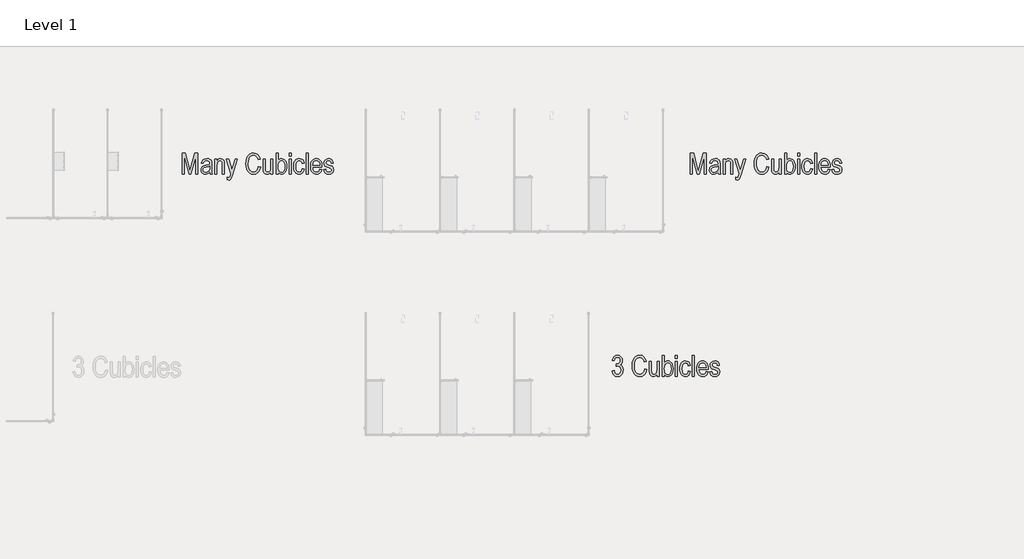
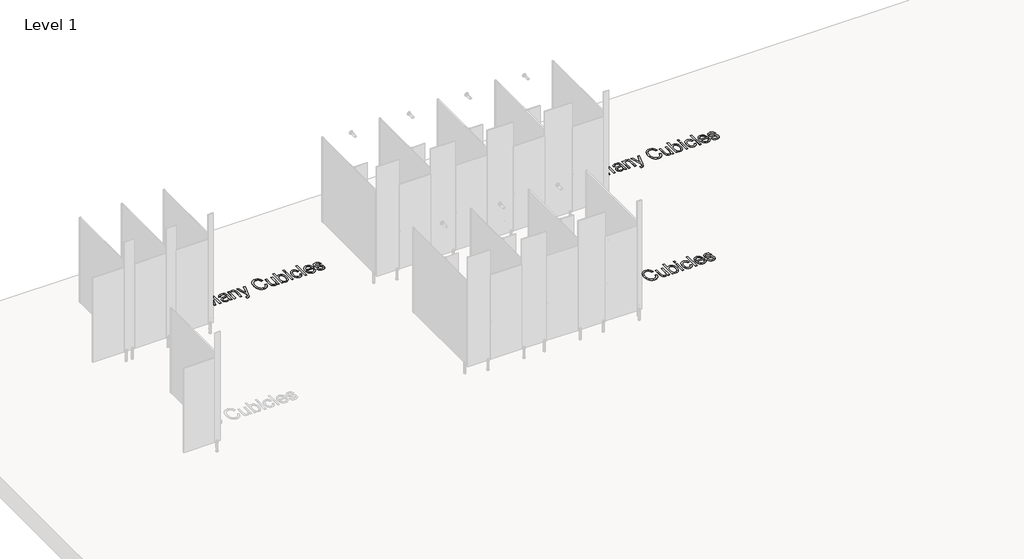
# One storey, part 18 of 21: 3 proxies.
"""IFC4 building model written with IfcOpenShell, lengths in millimetres."""

from ifc_helpers import new_model, si_unit, origin, origin_with_axes, place, context, project, spatial, polyline, outline, extrude, element, save

model = new_model("IFC4")

# Units and contexts
model_context = context("Model", 3, world=origin())
ifc_project = project(units=[si_unit("LENGTHUNIT", "METRE", prefix="MILLI")], contexts=[model_context])

# Site, building, storey
site = spatial("IfcSite", under=ifc_project)
building = spatial("IfcBuilding", under=site)
storey = spatial("IfcBuildingStorey", under=building, Name="Level 1", Elevation=0.0)

# Proxies
placement = place(None, origin())
element("IfcBuildingElementProxy", 1, Name="Arial Narrow-300mm", ObjectType="Arial Narrow-300mm", at=placement, inside=storey, context=model_context, shape_type="SweptSolid", body=[
    extrude(outline(polyline([(-22604.3352406, 32825.7607897), (-22604.3352406, 33130.9381591), (-22557.4972824, 33130.9381591), (-22500.1227064, 32914.8221289), (-22488.6631732, 32869.6761823), (-22475.2808994, 32918.5907002), (-22415.2144867, 33130.9381591), (-22372.9911057, 33130.9381591), (-22372.9911057, 32825.7607897), (-22402.5243996, 32825.7607897), (-22402.5243996, 33086.0229414), (-22475.7423571, 32825.7607897), (-22502.3530854, 32825.7607897), (-22574.8019468, 33100.6357691), (-22574.8019468, 32825.7607897), (-22604.3352406, 32825.7607897)])), origin_with_axes(), (0.0, 0.0, 1.0), 5.0),
    extrude(outline(polyline([(-22195.7913429, 32853.2944334), (-22211.4136093, 32839.1430635), (-22227.6703801, 32828.9909937), (-22244.5616552, 32822.876679), (-22262.0874347, 32820.8385741), (-22287.3906995, 32825.1262854), (-22307.0026524, 32837.9894192), (-22319.5773751, 32858.1012846), (-22323.7689494, 32884.1351908), (-22321.7596856, 32902.2666335), (-22315.7318942, 32918.2061521), (-22306.2239425, 32931.4249929), (-22293.7741979, 32941.3944023), (-22276.2580321, 32948.6527476), (-22251.5508169, 32953.7383962), (-22218.6142724, 32960.5448975), (-22195.7913429, 32968.5050431), (-22195.7913429, 32977.9649263), (-22197.88713, 32997.0769667), (-22204.1744914, 33009.4978702), (-22219.0949575, 33019.3615289), (-22240.3220125, 33022.6494151), (-22259.5494173, 33020.5824691), (-22273.2393295, 33014.381631), (-22282.7184401, 33002.4702538), (-22289.31344, 32983.27169), (-22318.8467338, 32988.1939057), (-22309.0599847, 33017.1023088), (-22292.6205536, 33036.9161495), (-22268.605525, 33048.3660691), (-22236.0919834, 33052.1827089), (-22210.5003076, 33049.500486), (-22191.0998561, 33041.453817), (-22177.8041057, 33029.4463027), (-22170.5265329, 33014.8815436), (-22166.2580491, 32968.5819527), (-22166.2580491, 32918.5137906), (-22164.258399, 32852.3330632), (-22156.4136178, 32825.7607897), (-22185.9469116, 32825.7607897), (-22192.1765908, 32838.4124221), (-22195.7913429, 32853.2944334)]), holes=[polyline([(-22195.7913429, 32938.9717493), (-22217.883631, 32930.9346941), (-22248.6282513, 32924.2051024), (-22277.1232653, 32916.4756857), (-22289.7364429, 32904.1701466), (-22294.2356556, 32885.8272024), (-22291.6591833, 32871.300898), (-22283.9297666, 32860.0240251), (-22271.6434549, 32852.7849072), (-22255.3962978, 32850.3718679), (-22238.8799571, 32852.5541783), (-22223.9402636, 32859.1011097), (-22211.5770422, 32869.2916342), (-22202.7901182, 32882.4047243), (-22197.5410367, 32900.3150519), (-22195.7913429, 32924.897289), (-22195.7913429, 32938.9717493)])]), origin_with_axes(), (0.0, 0.0, 1.0), 5.0),
    extrude(outline(polyline([(-22121.9581084, 32825.7607897), (-22121.9581084, 33047.2604933), (-22092.4248146, 33047.2604933), (-22092.4248146, 33018.6501149), (-22081.9074241, 33033.3686933), (-22069.2750191, 33043.8380152), (-22054.5852819, 33050.0965355), (-22037.8958945, 33052.1827089), (-22012.4003557, 33046.4529423), (-21993.4805893, 33031.4555665), (-21982.7516974, 33007.3828557), (-21979.2138549, 32961.8908159), (-21979.2138549, 32825.7607897), (-22008.7471488, 32825.7607897), (-22008.7471488, 32962.5060928), (-22012.7849038, 32998.7305235), (-22017.9666894, 33008.8825933), (-22025.4365361, 33016.419736), (-22034.7426001, 33021.0919953), (-22045.4330372, 33022.6494151), (-22064.7181242, 33018.4674546), (-22079.6578177, 33005.9215729), (-22089.2330654, 32983.2236215), (-22092.4248146, 32948.5854517), (-22092.4248146, 32825.7607897), (-22121.9581084, 32825.7607897)])), origin_with_axes(), (0.0, 0.0, 1.0), 5.0),
    extrude(outline(polyline([(-21934.9139142, 32742.0831239), (-21934.9139142, 32776.5386334), (-21919.5319904, 32771.6164177), (-21905.3037108, 32775.9233564), (-21896.0745565, 32789.3825398), (-21883.6921078, 32829.2217226), (-21949.6805611, 33047.2604933), (-21919.0705327, 33047.2604933), (-21881.3848192, 32927.7429449), (-21868.3870935, 32879.9820713), (-21856.0815545, 32926.9738487), (-21817.8574737, 33047.2604933), (-21787.2474452, 33047.2604933), (-21855.2355486, 32822.069128), (-21876.1934199, 32764.4253683), (-21884.3554532, 32751.9563963), (-21893.536539, 32743.5444067), (-21903.8808828, 32738.7567829), (-21915.5326902, 32737.1609083), (-21934.9139142, 32742.0831239)])), origin_with_axes(), (0.0, 0.0, 1.0), 5.0),
    extrude(outline(polyline([(-21477.1478602, 32934.0495337), (-21447.6145664, 32924.2051024), (-21462.4388955, 32878.7419037), (-21472.8937969, 32860.9637645), (-21485.3771894, 32846.4879321), (-21499.6102759, 32835.266338), (-21515.3142588, 32827.2509136), (-21532.4891381, 32822.441659), (-21551.1349139, 32820.8385741), (-21582.6678579, 32825.0686031), (-21609.2785861, 32837.7586903), (-21631.2362824, 32859.80291), (-21648.8101304, 32892.0953364), (-21660.3465733, 32932.8862757), (-21664.1920543, 32980.4260341), (-21660.356187, 33026.8506031), (-21648.8485853, 33065.5265279), (-21630.7940521, 33096.0692604), (-21607.3173908, 33118.0942527), (-21579.6010868, 33131.4188442), (-21548.8276254, 33135.8603747), (-21515.9487631, 33130.2363588), (-21488.0690261, 33113.3643111), (-21466.4958779, 33085.5903248), (-21452.536782, 33047.2604933), (-21482.0700758, 33037.416062), (-21492.6547622, 33065.4111634), (-21507.488705, 33085.4076645), (-21526.5719043, 33097.4055651), (-21549.90436, 33101.4048653), (-21573.5829091, 33098.2131161), (-21593.8582075, 33088.6378685), (-21610.5668223, 33072.3041881), (-21623.5453205, 33048.8371405), (-21631.8804005, 33018.2174983), (-21634.6587605, 32980.4260341), (-21633.2455462, 32951.1138555), (-21629.0059035, 32925.70484), (-21621.9398322, 32904.1989877), (-21612.0473324, 32886.5962986), (-21599.8138961, 32872.9015795), (-21585.7250152, 32863.1196373), (-21569.7806898, 32857.250472), (-21551.9809198, 32855.2940835), (-21526.129674, 32860.1778443), (-21504.1046817, 32874.8291268), (-21487.3095436, 32899.4017502), (-21477.1478602, 32934.0495337)])), origin_with_axes(), (0.0, 0.0, 1.0), 5.0),
    extrude(outline(polyline([(-21295.0258817, 32825.7607897), (-21295.0258817, 32855.6786316), (-21305.9855024, 32840.4601407), (-21318.7140444, 32829.5678159), (-21333.2115077, 32823.0208845), (-21349.4778921, 32820.8385741), (-21368.3015215, 32823.7322985), (-21384.1641304, 32832.4134718), (-21396.1620311, 32845.5265619), (-21403.3915353, 32861.7160367), (-21408.2368413, 32910.0537325), (-21408.2368413, 33047.2604933), (-21378.7035475, 33047.2604933), (-21378.7035475, 32922.66691), (-21375.357979, 32876.2519548), (-21370.5799689, 32865.6864958), (-21362.9370755, 32857.4475529), (-21353.2272361, 32852.1407891), (-21342.2483879, 32850.3718679), (-21322.636435, 32854.9672176), (-21306.8699631, 32868.7532669), (-21297.986902, 32891.2108757), (-21295.0258817, 32926.8969391), (-21295.0258817, 33047.2604933), (-21265.4925879, 33047.2604933), (-21265.4925879, 32825.7607897), (-21295.0258817, 32825.7607897)])), origin_with_axes(), (0.0, 0.0, 1.0), 5.0),
    extrude(outline(polyline([(-21186.7371377, 32825.7607897), (-21216.2704315, 32825.7607897), (-21216.2704315, 33130.9381591), (-21186.7371377, 33130.9381591), (-21186.7371377, 33023.6492402), (-21176.1716788, 33036.2047355), (-21164.3179837, 33045.1070239), (-21151.0991429, 33050.4137877), (-21136.4382467, 33052.1827089), (-21115.9514468, 33049.0005734), (-21097.4066149, 33039.4541669), (-21081.5920744, 33023.4473524), (-21069.296149, 33000.8839929), (-21061.3936857, 32972.2928419), (-21058.7595312, 32938.2026531), (-21060.2232174, 32911.6640276), (-21064.614276, 32888.3459924), (-21071.9327069, 32868.2485475), (-21082.1785103, 32851.3716929), (-21094.3758952, 32838.0134534), (-21107.5490709, 32828.4718538), (-21121.6980375, 32822.746894), (-21136.8227948, 32820.8385741), (-21151.7817157, 32822.8189968), (-21165.1255347, 32828.7602649), (-21176.7965694, 32838.6046961), (-21186.7371377, 32852.2946084), (-21186.7371377, 32825.7607897)]), holes=[polyline([(-21186.7371377, 32938.2026531), (-21185.1604905, 32907.679148), (-21180.4305489, 32885.9425668), (-21172.8164966, 32870.65678), (-21162.5875172, 32859.4856578), (-21150.41657, 32852.6503154), (-21136.976614, 32850.3718679), (-21118.9701494, 32855.793996), (-21103.0979267, 32872.0603805), (-21091.9941004, 32899.1325665), (-21088.292825, 32936.9720992), (-21091.8595086, 32975.3211581), (-21102.5595594, 33001.9222727), (-21118.4510095, 33017.4676295), (-21137.591891, 33022.6494151), (-21155.7041063, 33017.227287), (-21171.7397619, 33000.9609025), (-21182.9877938, 32974.4270838), (-21186.7371377, 32938.2026531)])]), origin_with_axes(), (0.0, 0.0, 1.0), 5.0),
    extrude(outline(polyline([(-21024.3040218, 32825.7607897), (-21024.3040218, 33047.2604933), (-20994.7707279, 33047.2604933), (-20994.7707279, 32825.7607897), (-21024.3040218, 32825.7607897)])), origin_with_axes(), (0.0, 0.0, 1.0), 5.0),
    extrude(outline(polyline([(-21024.3040218, 33086.6382184), (-21024.3040218, 33130.9381591), (-20994.7707279, 33130.9381591), (-20994.7707279, 33086.6382184), (-21024.3040218, 33086.6382184)])), origin_with_axes(), (0.0, 0.0, 1.0), 5.0),
    extrude(outline(polyline([(-20832.337612, 32904.5162399), (-20802.8043182, 32899.5940242), (-20811.889267, 32865.7634055), (-20828.8382243, 32841.0273491), (-20851.8053594, 32825.8857678), (-20878.9448413, 32820.8385741), (-20895.9226397, 32822.667581), (-20911.323791, 32828.1546016), (-20925.1482951, 32837.299636), (-20937.3961519, 32850.1026842), (-20947.4232436, 32866.4916434), (-20954.5854519, 32886.3944108), (-20958.8827768, 32909.8109865), (-20960.3152185, 32936.7413704), (-20958.8395152, 32963.7823118), (-20954.4124052, 32987.2229217), (-20947.0338886, 33007.0632001), (-20936.7039654, 33023.3031469), (-20924.0571399, 33035.9379553), (-20909.7279164, 33044.9628184), (-20893.716295, 33050.3777363), (-20876.0222757, 33052.1827089), (-20849.7287997, 33047.8757702), (-20827.9153089, 33034.9549542), (-20811.8508121, 33013.4202608), (-20802.8043182, 32983.27169), (-20832.337612, 32978.3494744), (-20838.6442008, 32997.778767), (-20848.3348128, 33011.6128847), (-20860.8518533, 33019.8902825), (-20875.6377277, 33022.6494151), (-20897.431991, 33017.5445391), (-20915.1308172, 33002.2299112), (-20926.8691478, 32975.8018433), (-20930.7819247, 32937.3566473), (-20927.1383315, 32897.7866482), (-20916.2075518, 32870.9067362), (-20899.5854604, 32855.505585), (-20878.8679317, 32850.3718679), (-20862.3227498, 32853.6693678), (-20848.3732676, 32863.5618676), (-20838.0385375, 32880.3954605), (-20832.337612, 32904.5162399)])), origin_with_axes(), (0.0, 0.0, 1.0), 5.0),
    extrude(outline(polyline([(-20773.2710244, 32825.7607897), (-20773.2710244, 33130.9381591), (-20743.7377306, 33130.9381591), (-20743.7377306, 32825.7607897), (-20773.2710244, 32825.7607897)])), origin_with_axes(), (0.0, 0.0, 1.0), 5.0),
    extrude(outline(polyline([(-20571.4601833, 32894.6718086), (-20541.9268895, 32889.749593), (-20553.1364665, 32859.7932963), (-20570.7679968, 32838.220148), (-20594.1100662, 32825.1839676), (-20622.4512609, 32820.8385741), (-20640.9432175, 32822.667581), (-20657.5797295, 32828.1546016), (-20672.360797, 32837.299636), (-20685.2864199, 32850.1026842), (-20695.7845829, 32866.3618584), (-20703.2832708, 32885.8752709), (-20707.7824835, 32908.6429216), (-20709.2822211, 32934.6648106), (-20707.7752733, 32961.6144219), (-20703.2544297, 32985.1655894), (-20695.7196904, 33005.3183131), (-20685.1710555, 33022.072593), (-20672.3151319, 33035.2457687), (-20657.8585269, 33044.6551799), (-20641.8012405, 33050.3008267), (-20624.1432725, 33052.1827089), (-20607.2255597, 33050.3657192), (-20591.7739365, 33044.9147499), (-20577.7884029, 33035.8298011), (-20565.268959, 33023.1108728), (-20554.9558597, 33006.9502391), (-20547.5893602, 32987.5401739), (-20543.1694606, 32964.8806773), (-20541.6961607, 32938.9717493), (-20541.9268895, 32929.127318), (-20679.7489273, 32929.127318), (-20674.201821, 32894.8640827), (-20661.5598023, 32870.2145497), (-20643.5917925, 32855.3325383), (-20622.0667128, 32850.3718679), (-20605.261961, 32853.1406142), (-20591.2259555, 32861.4468531), (-20579.9586963, 32875.2905845), (-20571.4601833, 32894.6718086)]), holes=[polyline([(-20677.7492772, 32958.6606119), (-20571.4601833, 32958.6606119), (-20575.767122, 32983.9254218), (-20584.3809994, 33001.8838179), (-20602.031757, 33017.4580158), (-20623.9125437, 33022.6494151), (-20644.0051817, 33018.323249), (-20660.9060706, 33005.3447508), (-20672.7693794, 32985.0213839), (-20677.7492772, 32958.6606119)])]), origin_with_axes(), (0.0, 0.0, 1.0), 5.0),
    extrude(outline(polyline([(-20517.3158113, 32889.749593), (-20487.7825175, 32894.6718086), (-20482.7449375, 32875.0983105), (-20473.0158706, 32861.2930338), (-20458.9798651, 32853.1021594), (-20441.021469, 32850.3718679), (-20423.2938018, 32852.7945209), (-20410.103802, 32860.0624799), (-20401.9129276, 32871.0413281), (-20399.1826361, 32884.5966485), (-20401.3553329, 32895.9984995), (-20407.8734231, 32904.5162399), (-20438.4834516, 32917.2063271), (-20486.3981444, 32936.5106415), (-20497.3866062, 32945.6724999), (-20505.5870944, 32957.4685128), (-20510.6919704, 32971.4949046), (-20512.3935957, 32987.3478999), (-20507.8847693, 33013.477943), (-20494.35829, 33034.185858), (-20472.8524377, 33047.6834962), (-20444.4054923, 33052.1827089), (-20425.5434081, 33050.308037), (-20409.103977, 33044.684021), (-20395.6544073, 33035.8874833), (-20385.7619075, 33024.495246), (-20378.9073377, 33009.0748673), (-20374.5715579, 32988.1939057), (-20404.1048517, 32983.27169), (-20408.1185725, 33000.4994448), (-20416.0066153, 33012.8049838), (-20427.7689802, 33020.1883073), (-20443.4056672, 33022.6494151), (-20460.7872412, 33020.553628), (-20473.0927802, 33014.2662666), (-20480.4184215, 33004.7102464), (-20482.8603019, 32992.8084828), (-20480.4953311, 32981.3297221), (-20473.4004187, 32972.581253), (-20439.6370959, 32958.6606119), (-20391.3763097, 32939.3947522), (-20382.2432925, 32930.9923763), (-20375.3791089, 32920.0135282), (-20371.081784, 32906.6024133), (-20369.6493423, 32890.9032373), (-20374.5811716, 32862.58127), (-20389.3766596, 32840.2197981), (-20412.689888, 32825.6838801), (-20443.1749383, 32820.8385741), (-20471.775703, 32825.1455128), (-20493.6661034, 32838.0663288), (-20508.8461395, 32859.6010222), (-20517.3158113, 32889.749593)])), origin_with_axes(), (0.0, 0.0, 1.0), 5.0),
])
element("IfcBuildingElementProxy", 2, Name="Arial Narrow-300mm", ObjectType="Arial Narrow-300mm", at=placement, inside=storey, context=model_context, shape_type="SweptSolid", body=[
    extrude(outline(polyline([(-15104.3352406, 32825.7607897), (-15104.3352406, 33130.9381591), (-15057.4972824, 33130.9381591), (-15000.1227064, 32914.8221289), (-14988.6631732, 32869.6761823), (-14975.2808994, 32918.5907002), (-14915.2144867, 33130.9381591), (-14872.9911057, 33130.9381591), (-14872.9911057, 32825.7607897), (-14902.5243996, 32825.7607897), (-14902.5243996, 33086.0229414), (-14975.7423571, 32825.7607897), (-15002.3530854, 32825.7607897), (-15074.8019468, 33100.6357691), (-15074.8019468, 32825.7607897), (-15104.3352406, 32825.7607897)])), origin_with_axes(), (0.0, 0.0, 1.0), 5.0),
    extrude(outline(polyline([(-14695.7913429, 32853.2944334), (-14711.4136093, 32839.1430635), (-14727.6703801, 32828.9909937), (-14744.5616552, 32822.876679), (-14762.0874347, 32820.8385741), (-14787.3906995, 32825.1262854), (-14807.0026524, 32837.9894192), (-14819.5773751, 32858.1012846), (-14823.7689494, 32884.1351908), (-14821.7596856, 32902.2666335), (-14815.7318942, 32918.2061521), (-14806.2239425, 32931.4249929), (-14793.7741979, 32941.3944023), (-14776.2580321, 32948.6527476), (-14751.5508169, 32953.7383962), (-14718.6142724, 32960.5448975), (-14695.7913429, 32968.5050431), (-14695.7913429, 32977.9649263), (-14697.88713, 32997.0769667), (-14704.1744914, 33009.4978702), (-14719.0949575, 33019.3615289), (-14740.3220125, 33022.6494151), (-14759.5494173, 33020.5824691), (-14773.2393295, 33014.381631), (-14782.7184401, 33002.4702538), (-14789.31344, 32983.27169), (-14818.8467338, 32988.1939057), (-14809.0599847, 33017.1023088), (-14792.6205536, 33036.9161495), (-14768.605525, 33048.3660691), (-14736.0919834, 33052.1827089), (-14710.5003076, 33049.500486), (-14691.0998561, 33041.453817), (-14677.8041057, 33029.4463027), (-14670.5265329, 33014.8815436), (-14666.2580491, 32968.5819527), (-14666.2580491, 32918.5137906), (-14664.258399, 32852.3330632), (-14656.4136178, 32825.7607897), (-14685.9469116, 32825.7607897), (-14692.1765908, 32838.4124221), (-14695.7913429, 32853.2944334)]), holes=[polyline([(-14695.7913429, 32938.9717493), (-14717.883631, 32930.9346941), (-14748.6282513, 32924.2051024), (-14777.1232653, 32916.4756857), (-14789.7364429, 32904.1701466), (-14794.2356556, 32885.8272024), (-14791.6591833, 32871.300898), (-14783.9297666, 32860.0240251), (-14771.6434549, 32852.7849072), (-14755.3962978, 32850.3718679), (-14738.8799571, 32852.5541783), (-14723.9402636, 32859.1011097), (-14711.5770422, 32869.2916342), (-14702.7901182, 32882.4047243), (-14697.5410367, 32900.3150519), (-14695.7913429, 32924.897289), (-14695.7913429, 32938.9717493)])]), origin_with_axes(), (0.0, 0.0, 1.0), 5.0),
    extrude(outline(polyline([(-14621.9581084, 32825.7607897), (-14621.9581084, 33047.2604933), (-14592.4248146, 33047.2604933), (-14592.4248146, 33018.6501149), (-14581.9074241, 33033.3686933), (-14569.2750191, 33043.8380152), (-14554.5852819, 33050.0965355), (-14537.8958945, 33052.1827089), (-14512.4003557, 33046.4529423), (-14493.4805893, 33031.4555665), (-14482.7516974, 33007.3828557), (-14479.2138549, 32961.8908159), (-14479.2138549, 32825.7607897), (-14508.7471488, 32825.7607897), (-14508.7471488, 32962.5060928), (-14512.7849038, 32998.7305235), (-14517.9666894, 33008.8825933), (-14525.4365361, 33016.419736), (-14534.7426001, 33021.0919953), (-14545.4330372, 33022.6494151), (-14564.7181242, 33018.4674546), (-14579.6578177, 33005.9215729), (-14589.2330654, 32983.2236215), (-14592.4248146, 32948.5854517), (-14592.4248146, 32825.7607897), (-14621.9581084, 32825.7607897)])), origin_with_axes(), (0.0, 0.0, 1.0), 5.0),
    extrude(outline(polyline([(-14434.9139142, 32742.0831239), (-14434.9139142, 32776.5386334), (-14419.5319904, 32771.6164177), (-14405.3037108, 32775.9233564), (-14396.0745565, 32789.3825398), (-14383.6921078, 32829.2217226), (-14449.6805611, 33047.2604933), (-14419.0705327, 33047.2604933), (-14381.3848192, 32927.7429449), (-14368.3870935, 32879.9820713), (-14356.0815545, 32926.9738487), (-14317.8574737, 33047.2604933), (-14287.2474452, 33047.2604933), (-14355.2355486, 32822.069128), (-14376.1934199, 32764.4253683), (-14384.3554532, 32751.9563963), (-14393.536539, 32743.5444067), (-14403.8808828, 32738.7567829), (-14415.5326902, 32737.1609083), (-14434.9139142, 32742.0831239)])), origin_with_axes(), (0.0, 0.0, 1.0), 5.0),
    extrude(outline(polyline([(-13977.1478602, 32934.0495337), (-13947.6145664, 32924.2051024), (-13962.4388955, 32878.7419037), (-13972.8937969, 32860.9637645), (-13985.3771894, 32846.4879321), (-13999.6102759, 32835.266338), (-14015.3142588, 32827.2509136), (-14032.4891381, 32822.441659), (-14051.1349139, 32820.8385741), (-14082.6678579, 32825.0686031), (-14109.2785861, 32837.7586903), (-14131.2362824, 32859.80291), (-14148.8101304, 32892.0953364), (-14160.3465733, 32932.8862757), (-14164.1920543, 32980.4260341), (-14160.356187, 33026.8506031), (-14148.8485853, 33065.5265279), (-14130.7940521, 33096.0692604), (-14107.3173908, 33118.0942527), (-14079.6010868, 33131.4188442), (-14048.8276254, 33135.8603747), (-14015.9487631, 33130.2363588), (-13988.0690261, 33113.3643111), (-13966.4958779, 33085.5903248), (-13952.536782, 33047.2604933), (-13982.0700758, 33037.416062), (-13992.6547622, 33065.4111634), (-14007.488705, 33085.4076645), (-14026.5719043, 33097.4055651), (-14049.90436, 33101.4048653), (-14073.5829091, 33098.2131161), (-14093.8582075, 33088.6378685), (-14110.5668223, 33072.3041881), (-14123.5453205, 33048.8371405), (-14131.8804005, 33018.2174983), (-14134.6587605, 32980.4260341), (-14133.2455462, 32951.1138555), (-14129.0059035, 32925.70484), (-14121.9398322, 32904.1989877), (-14112.0473324, 32886.5962986), (-14099.8138961, 32872.9015795), (-14085.7250152, 32863.1196373), (-14069.7806898, 32857.250472), (-14051.9809198, 32855.2940835), (-14026.129674, 32860.1778443), (-14004.1046817, 32874.8291268), (-13987.3095436, 32899.4017502), (-13977.1478602, 32934.0495337)])), origin_with_axes(), (0.0, 0.0, 1.0), 5.0),
    extrude(outline(polyline([(-13795.0258817, 32825.7607897), (-13795.0258817, 32855.6786316), (-13805.9855024, 32840.4601407), (-13818.7140444, 32829.5678159), (-13833.2115077, 32823.0208845), (-13849.4778921, 32820.8385741), (-13868.3015215, 32823.7322985), (-13884.1641304, 32832.4134718), (-13896.1620311, 32845.5265619), (-13903.3915353, 32861.7160367), (-13908.2368413, 32910.0537325), (-13908.2368413, 33047.2604933), (-13878.7035475, 33047.2604933), (-13878.7035475, 32922.66691), (-13875.357979, 32876.2519548), (-13870.5799689, 32865.6864958), (-13862.9370755, 32857.4475529), (-13853.2272361, 32852.1407891), (-13842.2483879, 32850.3718679), (-13822.636435, 32854.9672176), (-13806.8699631, 32868.7532669), (-13797.986902, 32891.2108757), (-13795.0258817, 32926.8969391), (-13795.0258817, 33047.2604933), (-13765.4925879, 33047.2604933), (-13765.4925879, 32825.7607897), (-13795.0258817, 32825.7607897)])), origin_with_axes(), (0.0, 0.0, 1.0), 5.0),
    extrude(outline(polyline([(-13686.7371377, 32825.7607897), (-13716.2704315, 32825.7607897), (-13716.2704315, 33130.9381591), (-13686.7371377, 33130.9381591), (-13686.7371377, 33023.6492402), (-13676.1716788, 33036.2047355), (-13664.3179837, 33045.1070239), (-13651.0991429, 33050.4137877), (-13636.4382467, 33052.1827089), (-13615.9514468, 33049.0005734), (-13597.4066149, 33039.4541669), (-13581.5920744, 33023.4473524), (-13569.296149, 33000.8839929), (-13561.3936857, 32972.2928419), (-13558.7595312, 32938.2026531), (-13560.2232174, 32911.6640276), (-13564.614276, 32888.3459924), (-13571.9327069, 32868.2485475), (-13582.1785103, 32851.3716929), (-13594.3758952, 32838.0134534), (-13607.5490709, 32828.4718538), (-13621.6980375, 32822.746894), (-13636.8227948, 32820.8385741), (-13651.7817157, 32822.8189968), (-13665.1255347, 32828.7602649), (-13676.7965694, 32838.6046961), (-13686.7371377, 32852.2946084), (-13686.7371377, 32825.7607897)]), holes=[polyline([(-13686.7371377, 32938.2026531), (-13685.1604905, 32907.679148), (-13680.4305489, 32885.9425668), (-13672.8164966, 32870.65678), (-13662.5875172, 32859.4856578), (-13650.41657, 32852.6503154), (-13636.976614, 32850.3718679), (-13618.9701494, 32855.793996), (-13603.0979267, 32872.0603805), (-13591.9941004, 32899.1325665), (-13588.292825, 32936.9720992), (-13591.8595086, 32975.3211581), (-13602.5595594, 33001.9222727), (-13618.4510095, 33017.4676295), (-13637.591891, 33022.6494151), (-13655.7041063, 33017.227287), (-13671.7397619, 33000.9609025), (-13682.9877938, 32974.4270838), (-13686.7371377, 32938.2026531)])]), origin_with_axes(), (0.0, 0.0, 1.0), 5.0),
    extrude(outline(polyline([(-13524.3040218, 32825.7607897), (-13524.3040218, 33047.2604933), (-13494.7707279, 33047.2604933), (-13494.7707279, 32825.7607897), (-13524.3040218, 32825.7607897)])), origin_with_axes(), (0.0, 0.0, 1.0), 5.0),
    extrude(outline(polyline([(-13524.3040218, 33086.6382184), (-13524.3040218, 33130.9381591), (-13494.7707279, 33130.9381591), (-13494.7707279, 33086.6382184), (-13524.3040218, 33086.6382184)])), origin_with_axes(), (0.0, 0.0, 1.0), 5.0),
    extrude(outline(polyline([(-13332.337612, 32904.5162399), (-13302.8043182, 32899.5940242), (-13311.889267, 32865.7634055), (-13328.8382243, 32841.0273491), (-13351.8053594, 32825.8857678), (-13378.9448413, 32820.8385741), (-13395.9226397, 32822.667581), (-13411.323791, 32828.1546016), (-13425.1482951, 32837.299636), (-13437.3961519, 32850.1026842), (-13447.4232436, 32866.4916434), (-13454.5854519, 32886.3944108), (-13458.8827768, 32909.8109865), (-13460.3152185, 32936.7413704), (-13458.8395152, 32963.7823118), (-13454.4124052, 32987.2229217), (-13447.0338886, 33007.0632001), (-13436.7039654, 33023.3031469), (-13424.0571399, 33035.9379553), (-13409.7279164, 33044.9628184), (-13393.716295, 33050.3777363), (-13376.0222757, 33052.1827089), (-13349.7287997, 33047.8757702), (-13327.9153089, 33034.9549542), (-13311.8508121, 33013.4202608), (-13302.8043182, 32983.27169), (-13332.337612, 32978.3494744), (-13338.6442008, 32997.778767), (-13348.3348128, 33011.6128847), (-13360.8518533, 33019.8902825), (-13375.6377277, 33022.6494151), (-13397.431991, 33017.5445391), (-13415.1308172, 33002.2299112), (-13426.8691478, 32975.8018433), (-13430.7819247, 32937.3566473), (-13427.1383315, 32897.7866482), (-13416.2075518, 32870.9067362), (-13399.5854604, 32855.505585), (-13378.8679317, 32850.3718679), (-13362.3227498, 32853.6693678), (-13348.3732676, 32863.5618676), (-13338.0385375, 32880.3954605), (-13332.337612, 32904.5162399)])), origin_with_axes(), (0.0, 0.0, 1.0), 5.0),
    extrude(outline(polyline([(-13273.2710244, 32825.7607897), (-13273.2710244, 33130.9381591), (-13243.7377306, 33130.9381591), (-13243.7377306, 32825.7607897), (-13273.2710244, 32825.7607897)])), origin_with_axes(), (0.0, 0.0, 1.0), 5.0),
    extrude(outline(polyline([(-13071.4601833, 32894.6718086), (-13041.9268895, 32889.749593), (-13053.1364665, 32859.7932963), (-13070.7679968, 32838.220148), (-13094.1100662, 32825.1839676), (-13122.4512609, 32820.8385741), (-13140.9432175, 32822.667581), (-13157.5797295, 32828.1546016), (-13172.360797, 32837.299636), (-13185.2864199, 32850.1026842), (-13195.7845829, 32866.3618584), (-13203.2832708, 32885.8752709), (-13207.7824835, 32908.6429216), (-13209.2822211, 32934.6648106), (-13207.7752733, 32961.6144219), (-13203.2544297, 32985.1655894), (-13195.7196904, 33005.3183131), (-13185.1710555, 33022.072593), (-13172.3151319, 33035.2457687), (-13157.8585269, 33044.6551799), (-13141.8012405, 33050.3008267), (-13124.1432725, 33052.1827089), (-13107.2255597, 33050.3657192), (-13091.7739365, 33044.9147499), (-13077.7884029, 33035.8298011), (-13065.268959, 33023.1108728), (-13054.9558597, 33006.9502391), (-13047.5893602, 32987.5401739), (-13043.1694606, 32964.8806773), (-13041.6961607, 32938.9717493), (-13041.9268895, 32929.127318), (-13179.7489273, 32929.127318), (-13174.201821, 32894.8640827), (-13161.5598023, 32870.2145497), (-13143.5917925, 32855.3325383), (-13122.0667128, 32850.3718679), (-13105.261961, 32853.1406142), (-13091.2259555, 32861.4468531), (-13079.9586963, 32875.2905845), (-13071.4601833, 32894.6718086)]), holes=[polyline([(-13177.7492772, 32958.6606119), (-13071.4601833, 32958.6606119), (-13075.767122, 32983.9254218), (-13084.3809994, 33001.8838179), (-13102.031757, 33017.4580158), (-13123.9125437, 33022.6494151), (-13144.0051817, 33018.323249), (-13160.9060706, 33005.3447508), (-13172.7693794, 32985.0213839), (-13177.7492772, 32958.6606119)])]), origin_with_axes(), (0.0, 0.0, 1.0), 5.0),
    extrude(outline(polyline([(-13017.3158113, 32889.749593), (-12987.7825175, 32894.6718086), (-12982.7449375, 32875.0983105), (-12973.0158706, 32861.2930338), (-12958.9798651, 32853.1021594), (-12941.021469, 32850.3718679), (-12923.2938018, 32852.7945209), (-12910.103802, 32860.0624799), (-12901.9129276, 32871.0413281), (-12899.1826361, 32884.5966485), (-12901.3553329, 32895.9984995), (-12907.8734231, 32904.5162399), (-12938.4834516, 32917.2063271), (-12986.3981444, 32936.5106415), (-12997.3866062, 32945.6724999), (-13005.5870944, 32957.4685128), (-13010.6919704, 32971.4949046), (-13012.3935957, 32987.3478999), (-13007.8847693, 33013.477943), (-12994.35829, 33034.185858), (-12972.8524377, 33047.6834962), (-12944.4054923, 33052.1827089), (-12925.5434081, 33050.308037), (-12909.103977, 33044.684021), (-12895.6544073, 33035.8874833), (-12885.7619075, 33024.495246), (-12878.9073377, 33009.0748673), (-12874.5715579, 32988.1939057), (-12904.1048517, 32983.27169), (-12908.1185725, 33000.4994448), (-12916.0066153, 33012.8049838), (-12927.7689802, 33020.1883073), (-12943.4056672, 33022.6494151), (-12960.7872412, 33020.553628), (-12973.0927802, 33014.2662666), (-12980.4184215, 33004.7102464), (-12982.8603019, 32992.8084828), (-12980.4953311, 32981.3297221), (-12973.4004187, 32972.581253), (-12939.6370959, 32958.6606119), (-12891.3763097, 32939.3947522), (-12882.2432925, 32930.9923763), (-12875.3791089, 32920.0135282), (-12871.081784, 32906.6024133), (-12869.6493423, 32890.9032373), (-12874.5811716, 32862.58127), (-12889.3766596, 32840.2197981), (-12912.689888, 32825.6838801), (-12943.1749383, 32820.8385741), (-12971.775703, 32825.1455128), (-12993.6661034, 32838.0663288), (-13008.8461395, 32859.6010222), (-13017.3158113, 32889.749593)])), origin_with_axes(), (0.0, 0.0, 1.0), 5.0),
])
element("IfcBuildingElementProxy", 3, Name="Arial Narrow-300mm", ObjectType="Arial Narrow-300mm", at=placement, inside=storey, context=model_context, shape_type="SweptSolid", body=[
    extrude(outline(polyline([(-16260.9571104, 29917.0588751), (-16231.4238166, 29921.9810907), (-16224.6077016, 29896.1394586), (-16214.0037878, 29877.68115), (-16199.6120753, 29866.6061648), (-16181.4325641, 29862.9145031), (-16161.2534027, 29867.538694), (-16143.9391246, 29881.4112665), (-16132.0277474, 29902.6479352), (-16128.0572883, 29929.3644142), (-16131.7585637, 29954.408109), (-16142.86239, 29974.0104482), (-16159.3498896, 29986.6716942), (-16179.2021851, 29990.8921096), (-16201.8905228, 29986.7389902), (-16196.9683072, 30020.4254034), (-16191.8922723, 30019.9639457), (-16170.1460774, 30023.4633334), (-16152.8990953, 30033.9614964), (-16141.6510635, 30050.3047905), (-16137.9017195, 30071.3395714), (-16140.9492632, 30090.6919543), (-16150.0918942, 30105.8335356), (-16163.6183735, 30115.610671), (-16179.8174621, 30118.8697161), (-16196.6126002, 30115.8125588), (-16210.542855, 30106.6410867), (-16220.781448, 30091.2783902), (-16226.501601, 30069.6475598), (-16256.0348948, 30074.5697754), (-16246.6326938, 30106.6314729), (-16229.9625338, 30129.7524272), (-16207.5241524, 30143.7403643), (-16180.8172871, 30148.4030099), (-16152.8702542, 30142.7213118), (-16129.4801162, 30125.6762174), (-16113.6463483, 30100.0172457), (-16108.3684257, 30068.4939155), (-16110.5026677, 30048.6896885), (-16116.9053935, 30031.2696597), (-16127.1343728, 30016.7914239), (-16140.7473754, 30005.8125758), (-16128.3745404, 30000.2270147), (-16118.3282214, 29991.9303895), (-16103.9845774, 29966.0887574), (-16098.5239945, 29929.9027815), (-16100.0597834, 29909.6395002), (-16104.6671503, 29891.3037663), (-16112.3460951, 29874.8955797), (-16123.0966178, 29860.4149405), (-16135.9861893, 29848.5876831), (-16150.0822805, 29840.1396421), (-16165.3848913, 29835.0708175), (-16181.8940218, 29833.3812093), (-16211.2446552, 29839.0532937), (-16235.7692101, 29856.069547), (-16253.1219429, 29882.6610479), (-16260.9571104, 29917.0588751)])), origin_with_axes(), (0.0, 0.0, 1.0), 5.0),
    extrude(outline(polyline([(-15778.5799782, 29946.5921689), (-15749.0466844, 29936.7477376), (-15763.8710135, 29891.2845389), (-15774.3259149, 29873.5063997), (-15786.8093074, 29859.0305673), (-15801.0423939, 29847.8089732), (-15816.7463768, 29839.7935488), (-15833.9212561, 29834.9842942), (-15852.5670319, 29833.3812093), (-15884.0999759, 29837.6112383), (-15910.7107041, 29850.3013255), (-15932.6684004, 29872.3455452), (-15950.2422484, 29904.6379716), (-15961.7786913, 29945.4289109), (-15965.6241723, 29992.9686693), (-15961.788305, 30039.3932383), (-15950.2807033, 30078.0691631), (-15932.2261701, 30108.6118956), (-15908.7495088, 30130.6368879), (-15881.0332048, 30143.9614794), (-15850.2597434, 30148.4030099), (-15817.3808811, 30142.778994), (-15789.5011441, 30125.9069463), (-15767.9279959, 30098.13296), (-15753.9689, 30059.8031285), (-15783.5021938, 30049.9586972), (-15794.0868802, 30077.9537987), (-15808.920823, 30097.9502997), (-15828.0040223, 30109.9482003), (-15851.336478, 30113.9475005), (-15875.0150271, 30110.7557513), (-15895.2903255, 30101.1805037), (-15911.9989403, 30084.8468233), (-15924.9774385, 30061.3797757), (-15933.3125185, 30030.7601335), (-15936.0908785, 29992.9686693), (-15934.6776642, 29963.6564907), (-15930.4380215, 29938.2474752), (-15923.3719502, 29916.7416229), (-15913.4794504, 29899.1389338), (-15901.2460141, 29885.4442147), (-15887.1571332, 29875.6622725), (-15871.2128078, 29869.7931072), (-15853.4130378, 29867.8367187), (-15827.561792, 29872.7204796), (-15805.5367997, 29887.371762), (-15788.7416616, 29911.9443854), (-15778.5799782, 29946.5921689)])), origin_with_axes(), (0.0, 0.0, 1.0), 5.0),
    extrude(outline(polyline([(-15596.4579997, 29838.3034249), (-15596.4579997, 29868.2212668), (-15607.4176204, 29853.0027759), (-15620.1461624, 29842.1104511), (-15634.6436257, 29835.5635197), (-15650.9100101, 29833.3812093), (-15669.7336395, 29836.2749337), (-15685.5962484, 29844.956107), (-15697.5941491, 29858.0691971), (-15704.8236533, 29874.2586719), (-15709.6689593, 29922.5963677), (-15709.6689593, 30059.8031285), (-15680.1356655, 30059.8031285), (-15680.1356655, 29935.2095452), (-15676.790097, 29888.79459), (-15672.0120869, 29878.229131), (-15664.3691935, 29869.9901881), (-15654.6593541, 29864.6834243), (-15643.6805059, 29862.9145031), (-15624.068553, 29867.5098529), (-15608.3020811, 29881.2959021), (-15599.41902, 29903.7535109), (-15596.4579997, 29939.4395743), (-15596.4579997, 30059.8031285), (-15566.9247059, 30059.8031285), (-15566.9247059, 29838.3034249), (-15596.4579997, 29838.3034249)])), origin_with_axes(), (0.0, 0.0, 1.0), 5.0),
    extrude(outline(polyline([(-15488.1692557, 29838.3034249), (-15517.7025495, 29838.3034249), (-15517.7025495, 30143.4807943), (-15488.1692557, 30143.4807943), (-15488.1692557, 30036.1918754), (-15477.6037968, 30048.7473707), (-15465.7501017, 30057.6496592), (-15452.5312609, 30062.9564229), (-15437.8703647, 30064.7253441), (-15417.3835649, 30061.5432086), (-15398.8387329, 30051.9968021), (-15383.0241924, 30035.9899876), (-15370.728267, 30013.4266281), (-15362.8258037, 29984.8354771), (-15360.1916492, 29950.7452883), (-15361.6553354, 29924.2066628), (-15366.046394, 29900.8886276), (-15373.3648249, 29880.7911827), (-15383.6106283, 29863.9143281), (-15395.8080132, 29850.5560886), (-15408.9811889, 29841.014489), (-15423.1301555, 29835.2895292), (-15438.2549128, 29833.3812093), (-15453.2138337, 29835.361632), (-15466.5576527, 29841.3029001), (-15478.2286874, 29851.1473313), (-15488.1692557, 29864.8372436), (-15488.1692557, 29838.3034249)]), holes=[polyline([(-15488.1692557, 29950.7452883), (-15486.5926085, 29920.2217832), (-15481.8626669, 29898.485202), (-15474.2486146, 29883.1994152), (-15464.0196353, 29872.028293), (-15451.848688, 29865.1929506), (-15438.408732, 29862.9145031), (-15420.4022674, 29868.3366313), (-15404.5300447, 29884.6030157), (-15393.4262184, 29911.6752017), (-15389.724943, 29949.5147344), (-15393.2916266, 29987.8637933), (-15403.9916774, 30014.4649079), (-15419.8831275, 30030.0102647), (-15439.024009, 30035.1920503), (-15457.1362243, 30029.7699222), (-15473.1718799, 30013.5035377), (-15484.4199118, 29986.969719), (-15488.1692557, 29950.7452883)])]), origin_with_axes(), (0.0, 0.0, 1.0), 5.0),
    extrude(outline(polyline([(-15325.7361398, 30099.1808536), (-15325.7361398, 30143.4807943), (-15296.2028459, 30143.4807943), (-15296.2028459, 30099.1808536), (-15325.7361398, 30099.1808536)])), origin_with_axes(), (0.0, 0.0, 1.0), 5.0),
    extrude(outline(polyline([(-15325.7361398, 29838.3034249), (-15325.7361398, 30059.8031285), (-15296.2028459, 30059.8031285), (-15296.2028459, 29838.3034249), (-15325.7361398, 29838.3034249)])), origin_with_axes(), (0.0, 0.0, 1.0), 5.0),
    extrude(outline(polyline([(-15133.76973, 29917.0588751), (-15104.2364362, 29912.1366594), (-15113.321385, 29878.3060407), (-15130.2703423, 29853.5699844), (-15153.2374774, 29838.4284031), (-15180.3769593, 29833.3812093), (-15197.3547577, 29835.2102162), (-15212.755909, 29840.6972368), (-15226.5804131, 29849.8422712), (-15238.8282699, 29862.6453194), (-15248.8553616, 29879.0342786), (-15256.0175699, 29898.937046), (-15260.3148948, 29922.3536217), (-15261.7473365, 29949.2840056), (-15260.2716332, 29976.324947), (-15255.8445232, 29999.7655569), (-15248.4660066, 30019.6058353), (-15238.1360834, 30035.8457821), (-15225.4892579, 30048.4805905), (-15211.1600344, 30057.5054536), (-15195.148413, 30062.9203715), (-15177.4543938, 30064.7253441), (-15151.1609177, 30060.4184055), (-15129.3474269, 30047.4975894), (-15113.2829301, 30025.962896), (-15104.2364362, 29995.8143252), (-15133.76973, 29990.8921096), (-15140.0763188, 30010.3214022), (-15149.7669308, 30024.15552), (-15162.2839713, 30032.4329177), (-15177.0698457, 30035.1920503), (-15198.864109, 30030.0871743), (-15216.5629352, 30014.7725464), (-15228.3012658, 29988.3444785), (-15232.2140427, 29949.8992825), (-15228.5704495, 29910.3292834), (-15217.6396698, 29883.4493714), (-15201.0175784, 29868.0482202), (-15180.3000497, 29862.9145031), (-15163.7548678, 29866.212003), (-15149.8053856, 29876.1045028), (-15139.4706555, 29892.9380957), (-15133.76973, 29917.0588751)])), origin_with_axes(), (0.0, 0.0, 1.0), 5.0),
    extrude(outline(polyline([(-15074.7031424, 29838.3034249), (-15074.7031424, 30143.4807943), (-15045.1698486, 30143.4807943), (-15045.1698486, 29838.3034249), (-15074.7031424, 29838.3034249)])), origin_with_axes(), (0.0, 0.0, 1.0), 5.0),
    extrude(outline(polyline([(-14872.8923013, 29907.2144438), (-14843.3590075, 29902.2922282), (-14854.5685845, 29872.3359315), (-14872.2001148, 29850.7627832), (-14895.5421842, 29837.7266028), (-14923.8833789, 29833.3812093), (-14942.3753355, 29835.2102162), (-14959.0118475, 29840.6972368), (-14973.792915, 29849.8422712), (-14986.7185379, 29862.6453194), (-14997.2167009, 29878.9044936), (-15004.7153888, 29898.4179061), (-15009.2146015, 29921.1855568), (-15010.7143391, 29947.2074458), (-15009.2073913, 29974.1570571), (-15004.6865477, 29997.7082246), (-14997.1518084, 30017.8609483), (-14986.6031735, 30034.6152282), (-14973.7472499, 30047.7884039), (-14959.2906449, 30057.1978151), (-14943.2333585, 30062.8434619), (-14925.5753906, 30064.7253441), (-14908.6576777, 30062.9083544), (-14893.2060545, 30057.4573851), (-14879.2205209, 30048.3724363), (-14866.701077, 30035.653508), (-14856.3879777, 30019.4928743), (-14849.0214782, 30000.0828091), (-14844.6015786, 29977.4233125), (-14843.1282787, 29951.5143845), (-14843.3590075, 29941.6699533), (-14981.1810453, 29941.6699533), (-14975.633939, 29907.4067179), (-14962.9919203, 29882.7571849), (-14945.0239105, 29867.8751735), (-14923.4988308, 29862.9145031), (-14906.694079, 29865.6832494), (-14892.6580735, 29873.9894883), (-14881.3908143, 29887.8332197), (-14872.8923013, 29907.2144438)]), holes=[polyline([(-14979.1813952, 29971.2032471), (-14872.8923013, 29971.2032471), (-14877.19924, 29996.468057), (-14885.8131174, 30014.4264531), (-14903.463875, 30030.000651), (-14925.3446617, 30035.1920503), (-14945.4372997, 30030.8658842), (-14962.3381886, 30017.887386), (-14974.2014974, 29997.5640191), (-14979.1813952, 29971.2032471)])]), origin_with_axes(), (0.0, 0.0, 1.0), 5.0),
    extrude(outline(polyline([(-14818.7479293, 29902.2922282), (-14789.2146355, 29907.2144438), (-14784.1770555, 29887.6409457), (-14774.4479886, 29873.835669), (-14760.4119831, 29865.6447946), (-14742.453587, 29862.9145031), (-14724.7259198, 29865.3371561), (-14711.53592, 29872.6051151), (-14703.3450456, 29883.5839633), (-14700.6147541, 29897.1392837), (-14702.7874509, 29908.5411347), (-14709.3055411, 29917.0588751), (-14739.9155696, 29929.7489623), (-14787.8302624, 29949.0532767), (-14798.8187242, 29958.2151351), (-14807.0192124, 29970.011148), (-14812.1240884, 29984.0375398), (-14813.8257137, 29999.8905351), (-14809.3168873, 30026.0205782), (-14795.790408, 30046.7284932), (-14774.2845557, 30060.2261314), (-14745.8376103, 30064.7253441), (-14726.9755261, 30062.8506722), (-14710.536095, 30057.2266563), (-14697.0865253, 30048.4301185), (-14687.1940255, 30037.0378812), (-14680.3394557, 30021.6175025), (-14676.0036759, 30000.7365409), (-14705.5369697, 29995.8143252), (-14709.5506905, 30013.04208), (-14717.4387333, 30025.3476191), (-14729.2010982, 30032.7309425), (-14744.8377852, 30035.1920503), (-14762.2193592, 30033.0962632), (-14774.5248983, 30026.8089018), (-14781.8505395, 30017.2528816), (-14784.2924199, 30005.351118), (-14781.9274491, 29993.8723574), (-14774.8325367, 29985.1238882), (-14741.0692139, 29971.2032471), (-14692.8084277, 29951.9373874), (-14683.6754105, 29943.5350115), (-14676.8112269, 29932.5561634), (-14672.513902, 29919.1450485), (-14671.0814603, 29903.4458725), (-14676.0132896, 29875.1239052), (-14690.8087776, 29852.7624334), (-14714.122006, 29838.2265153), (-14744.6070563, 29833.3812093), (-14773.207821, 29837.688148), (-14795.0982214, 29850.608964), (-14810.2782575, 29872.1436574), (-14818.7479293, 29902.2922282)])), origin_with_axes(), (0.0, 0.0, 1.0), 5.0),
])

save(model, "model.ifc")
